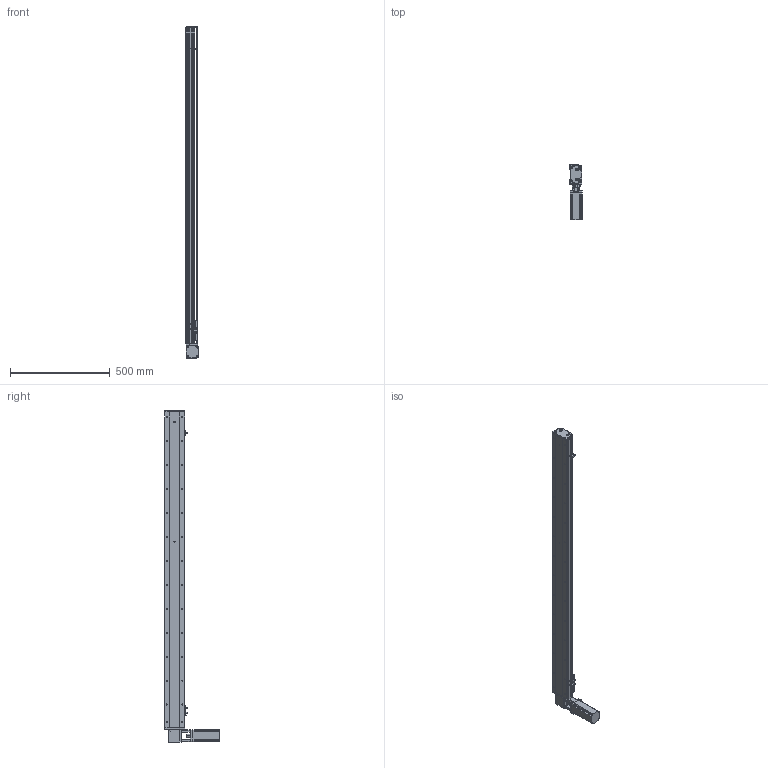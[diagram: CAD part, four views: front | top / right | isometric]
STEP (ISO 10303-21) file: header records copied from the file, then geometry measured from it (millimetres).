
FILE_DESCRIPTION (( 'STEP AP214' ), '1' );
FILE_NAME ('KSD100B-S1400-MLT-CM.STEP', '2019-10-26T05:59:57', ( '微软用户' ), ( '微软中国' ), 'SwSTEP 2.0', 'SolidWorks 2014', '' );
FILE_SCHEMA (( 'AUTOMOTIVE_DESIGN' ));
Length unit declared in the file: millimetre
Products named in the file (12): U倰嫖萇EEㄜSX672; 覜茼え100遵圉猾敕; 台达ECMA－C20604AS伺服电机; 100宽马达安装板同步带右; 100宽同步带安装板半封闭; 100宽马达安装板同步带; 100遵傷啣肮祭湍; 100宽底板半封闭同步带1400行程; KSD100B-S1400-MLT-CM; 100宽安装板同步带带电机座400W,86; 100遵鎮湛假蚾啣1 ; 100宽防尘板1400行程-同步带
Assembly tree (13 placements, depth 2):
  KSD100B-S1400-MLT-CM
    100宽底板半封闭同步带1400行程
    100遵傷啣肮祭湍
    100宽马达安装板同步带
    100宽同步带安装板半封闭
    100宽马达安装板同步带右
    台达ECMA－C20604AS伺服电机
    覜茼え100遵圉猾敕
    U倰嫖萇EEㄜSX672  x3
    100宽防尘板1400行程-同步带
    100遵鎮湛假蚾啣1 
    100宽安装板同步带带电机座400W,86
Bounding box: 61 x 275 x 1665 mm (x, y, z)
Volume: 3543342.9 mm3; surface area: 1181366.6 mm2
Topology: 14 solids, 14 shells, 1584 faces, 4477 edges, 2827 vertices
Faces by surface type: cylinder 826, plane 591, cone 167
Entity records: 56841 total; most frequent: CARTESIAN_POINT 12048, DIRECTION 7813, ORIENTED_EDGE 7526, EDGE_CURVE 3763, AXIS2_PLACEMENT_3D 2890, VERTEX_POINT 2451, LINE 2033, VECTOR 2033
